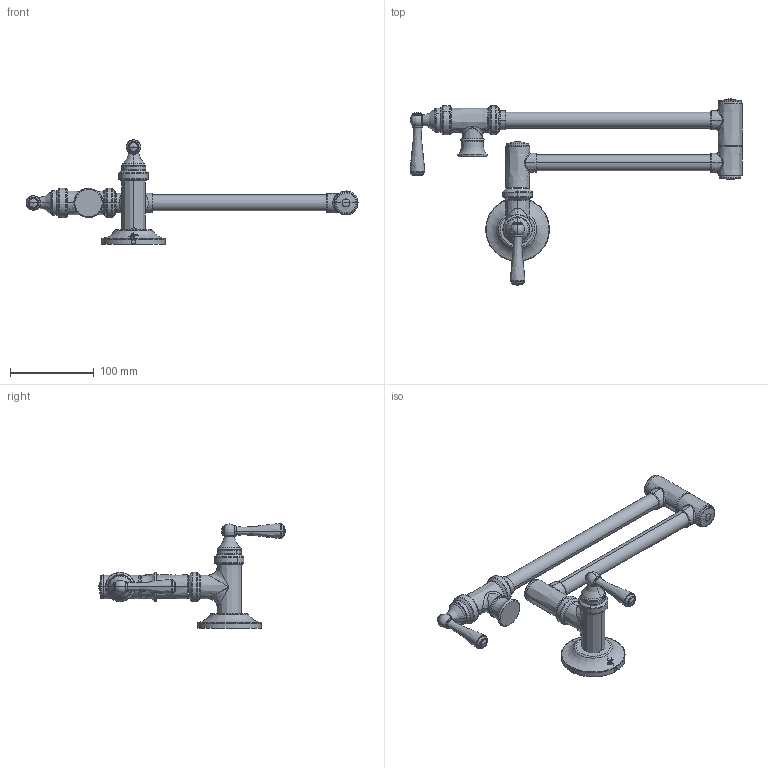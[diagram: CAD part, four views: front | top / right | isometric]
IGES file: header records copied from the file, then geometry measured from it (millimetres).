
Start section:  PTC IGES file: sku_s664.igs
Global section: file name: sku_s664.igs; native system: Pro/ENGINEER by Parametric Technology Corporation; preprocessor: 2006460; author: 9dutterb; organization: Unknown; date: 20071023.140200; units: inch
Bounding box: 396.9 x 222.59 x 125.23 mm (x, y, z)
Surface area: 95317.6 mm2 (no closed solid volume)
Topology: 0 solids, 0 shells, 248 faces, 1051 edges, 1037 vertices
Faces by surface type: revolution 216, bspline 32
